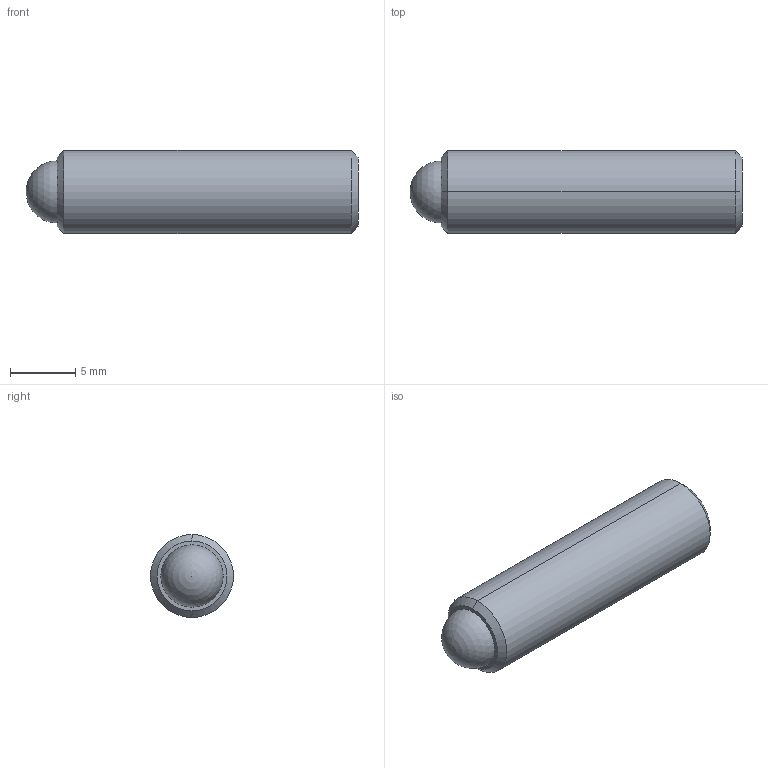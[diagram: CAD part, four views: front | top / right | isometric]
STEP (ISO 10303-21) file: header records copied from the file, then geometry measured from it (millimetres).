
FILE_DESCRIPTION (( 'STEP AP214' ), '1' );
FILE_NAME ('TS250-100-1000-AA.STEP', '2013-02-13T14:01:55', ( 'workpc' ), ( 'Microsoft' ), 'SwSTEP 2.0', 'SolidWorks 2013', '' );
FILE_SCHEMA (( 'AUTOMOTIVE_DESIGN' ));
Length unit declared in the file: inch
Products named in the file (1): TS250-100-1000-AA
Bounding box: 25.4 x 6.35 x 6.35 mm (x, y, z)
Volume: 737.5 mm3; surface area: 626.7 mm2
Topology: 2 solids, 2 shells, 20 faces, 45 edges, 29 vertices
Faces by surface type: plane 10, cylinder 4, cone 4, sphere 2
Entity records: 599 total; most frequent: DIRECTION 96, CARTESIAN_POINT 87, ORIENTED_EDGE 80, EDGE_CURVE 40, AXIS2_PLACEMENT_3D 35, VERTEX_POINT 26, VECTOR 26, LINE 26
